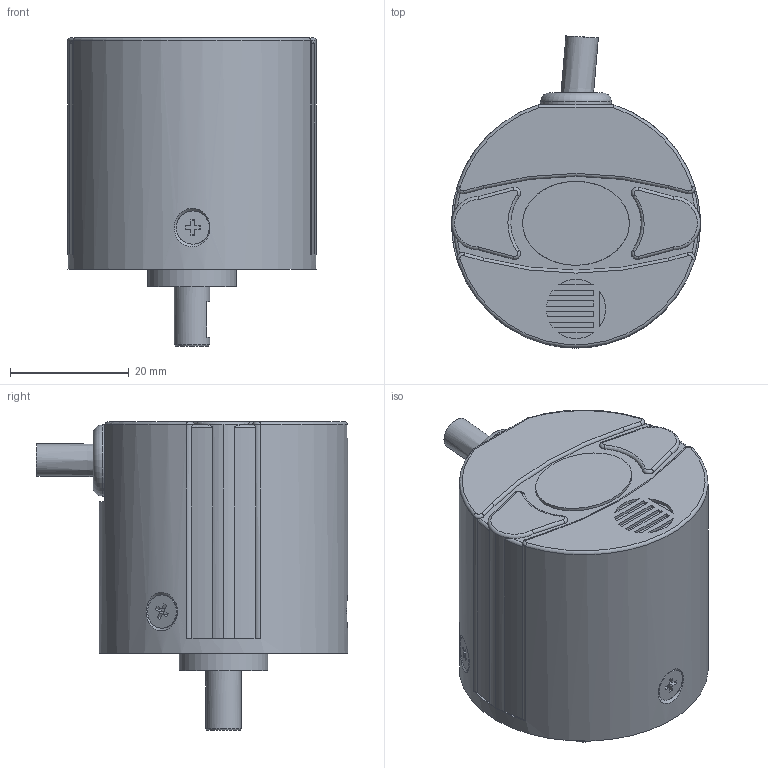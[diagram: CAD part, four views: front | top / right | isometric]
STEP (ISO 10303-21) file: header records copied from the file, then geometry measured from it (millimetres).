
FILE_DESCRIPTION( ( 'Unknown' ), '1' );
FILE_NAME( 'C:/Users/malfermoa/Desktop/EL40E.stp', 'Unknown', ( 'Unknown' ), ( 'Unknown' ), 'PSStep 15.0.49', 'Unknown', ' ' );
FILE_SCHEMA( ( 'AUTOMOTIVE_DESIGN { 1 0 10303 214 1 1 1 1 }' ) );
Length unit declared in the file: millimetre
Products named in the file (4): Assem1; 23220001B1; 23290031 - 686 6x13x5; 41320006E1
Assembly tree (3 placements, depth 2):
  Assem1
    23220001B1
    23290031 - 686 6x13x5
    41320006E1
Bounding box: 42 x 52.63 x 52 mm (x, y, z)
Volume: 24087.8 mm3; surface area: 19604.3 mm2
Topology: 3 solids, 8 shells, 299 faces, 750 edges, 485 vertices
Faces by surface type: plane 121, cylinder 96, cone 33, torus 32, bspline 16, extrusion 1
Full cylindrical faces by diameter (mm): 2.5 x9, 5.6 x3, 6 x9, 8.5 x2, 8.997 x1, 10 x1, 10.5 x2, 12 x1, 13 x1, 15 x1, 24 x1, 36 x1, 38.8 x2, 39 x1, 42 x1
Entity records: 16120 total; most frequent: CARTESIAN_POINT 7334, DIRECTION 1321, ORIENTED_EDGE 1236, EDGE_CURVE 618, AXIS2_PLACEMENT_3D 526, VERTEX_POINT 438, EDGE_LOOP 386, FACE_OUTER_BOUND 327
